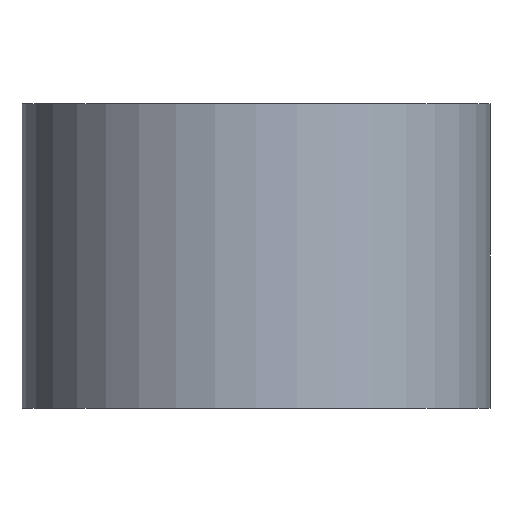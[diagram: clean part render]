
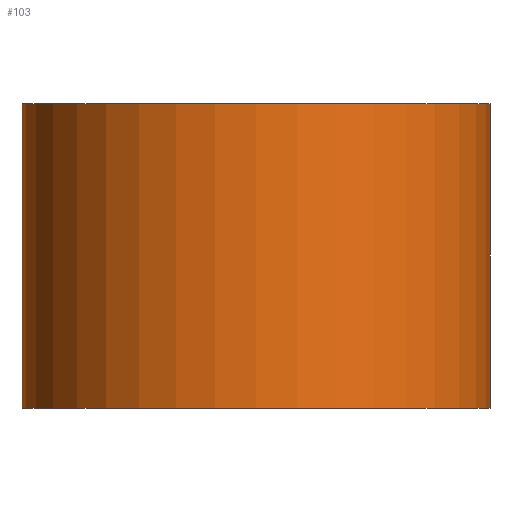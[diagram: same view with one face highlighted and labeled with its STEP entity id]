
A CAD part, left-side view. The second image highlights one B-rep face of the part: STEP entity #103.
In plain terms, the highlighted cylindrical face has radius 10 mm (diameter 20 mm), a partial arc.
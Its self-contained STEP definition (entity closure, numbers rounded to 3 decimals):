
#103=ADVANCED_FACE('',(#113),#109,.T.);
#109=CYLINDRICAL_SURFACE('',#188,10.);
#113=FACE_OUTER_BOUND('',#117,.T.);
#117=EDGE_LOOP('',(#133,#134,#135,#136));
#125=CIRCLE('',#186,10.);
#126=CIRCLE('',#187,10.);
#133=ORIENTED_EDGE('',*,*,#165,.T.);
#134=ORIENTED_EDGE('',*,*,#166,.F.);
#135=ORIENTED_EDGE('',*,*,#167,.F.);
#136=ORIENTED_EDGE('',*,*,#168,.T.);
#157=VERTEX_POINT('',#236);
#158=VERTEX_POINT('',#237);
#159=VERTEX_POINT('',#239);
#160=VERTEX_POINT('',#241);
#165=EDGE_CURVE('',#157,#158,#177,.T.);
#166=EDGE_CURVE('',#159,#158,#125,.T.);
#167=EDGE_CURVE('',#160,#159,#178,.T.);
#168=EDGE_CURVE('',#160,#157,#126,.T.);
#177=LINE('',#235,#181);
#178=LINE('',#240,#182);
#181=VECTOR('',#202,1.);
#182=VECTOR('',#205,1.);
#186=AXIS2_PLACEMENT_3D('',#238,#203,#204);
#187=AXIS2_PLACEMENT_3D('',#242,#206,#207);
#188=AXIS2_PLACEMENT_3D('',#243,#208,#209);
#202=DIRECTION('',(0.,0.,1.));
#203=DIRECTION('',(0.,0.,1.));
#204=DIRECTION('',(1.,0.,0.));
#205=DIRECTION('',(0.,0.,1.));
#206=DIRECTION('',(0.,0.,1.));
#207=DIRECTION('',(1.,0.,0.));
#208=DIRECTION('',(0.,0.,1.));
#209=DIRECTION('',(-1.,0.,0.));
#235=CARTESIAN_POINT('',(0.,-10.,0.));
#236=CARTESIAN_POINT('',(0.,-10.,0.));
#237=CARTESIAN_POINT('',(0.,-10.,13.));
#238=CARTESIAN_POINT('',(0.,0.,13.));
#239=CARTESIAN_POINT('',(0.,10.,13.));
#240=CARTESIAN_POINT('',(0.,10.,0.));
#241=CARTESIAN_POINT('',(0.,10.,0.));
#242=CARTESIAN_POINT('',(0.,0.,0.));
#243=CARTESIAN_POINT('',(0.,0.,0.));
